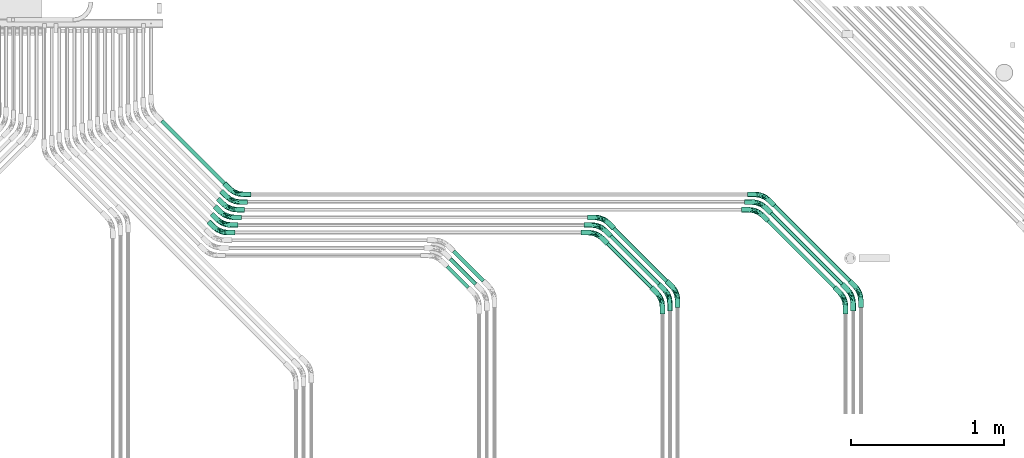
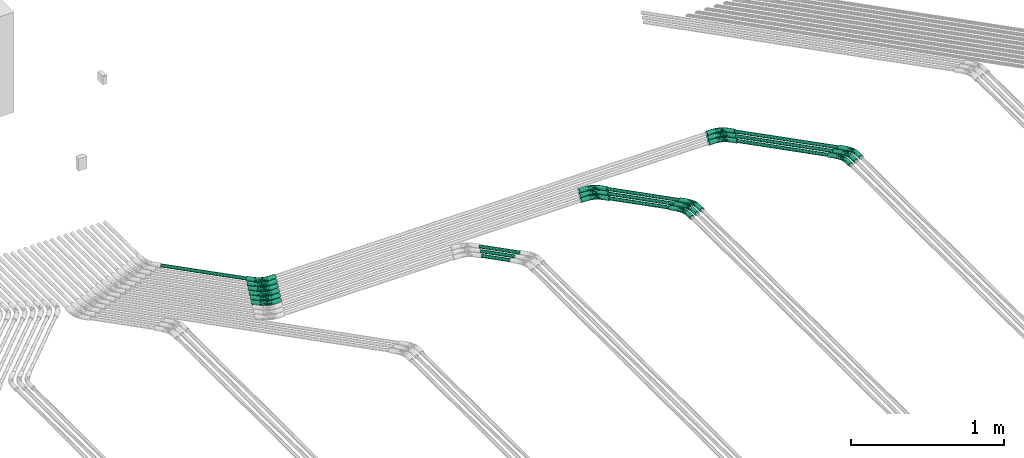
# One storey, part 18 of 51: 18 flow fittings, 10 flow segments.
"""IFC2X3 building model written with IfcOpenShell, lengths in millimetres."""

import ifcopenshell
import ifcopenshell.guid

model = None  # the IFC model being written
_history = None  # IfcOwnerHistory: only IFC2X3 demands one
_inside = {}  # id of a spatial element -> (the spatial element, [elements in it])
_under = {}  # id of a project, library or spatial element -> (it, [spatial elements below it])
_declared = {}  # id of a project -> (the project, [libraries it declares])
_typed = {}  # id of a type object -> (the type object, [elements of that type])
_made_of = {}  # id of a material, layer set ... -> (it, [elements and type objects made of it])


def new_model(schema):
    """Start an empty IFC model of exactly this schema.

    Asked for "IFC4X3", IfcOpenShell would pick the latest addendum, in which some entities
    have other attributes; the version numbers below select the first issue.
    IFC2X3 requires an IfcOwnerHistory on every rooted entity: one is made here for all.
    """
    global model, _history
    if schema == "IFC4X3":
        model = ifcopenshell.file(schema_version=(4, 3, 0, 0))
    else:
        model = ifcopenshell.file(schema=schema)
    _inside.clear()
    _under.clear()
    _declared.clear()
    _typed.clear()
    _made_of.clear()
    _history = None
    if model.schema == "IFC2X3":
        org = make("IfcOrganization", Name="unknown")
        user = make(
            "IfcPersonAndOrganization",
            ThePerson=make("IfcPerson", FamilyName="unknown"),
            TheOrganization=org,
        )
        app = make(
            "IfcApplication",
            ApplicationDeveloper=org,
            Version="unknown",
            ApplicationFullName="unknown",
            ApplicationIdentifier="unknown",
        )
        _history = make(
            "IfcOwnerHistory",
            OwningUser=user,
            OwningApplication=app,
            ChangeAction="ADDED",
            CreationDate=0,
        )
    return model


def make(cls, **values):
    """One entity of the class cls with the attributes given. An attribute that is None is left unset."""
    return model.create_entity(
        cls, **{name: value for name, value in values.items() if value is not None}
    )


def entity(cls, *values):
    """Any entity or typed value of the class cls, its attributes in the order of the schema. None: left unset."""
    e = model.create_entity(cls)
    for i, value in enumerate(values):
        if value is not None:
            e[i] = value
    return e


def rooted(cls, **values):
    """An entity with a GlobalId (a new one), such as an element, a storey or a relation."""
    return make(cls, GlobalId=ifcopenshell.guid.new(), OwnerHistory=_history, **values)


def si_unit(unit_type, name, prefix=None):
    """IfcSIUnit, for example si_unit("LENGTHUNIT", "METRE", prefix="MILLI")."""
    return make("IfcSIUnit", UnitType=unit_type, Prefix=prefix, Name=name)


def converted_unit(unit_type, name, factor, base, dimensions=None, offset=None):
    """IfcConversionBasedUnit, such as the inch: factor (a typed value) times the base unit."""
    return make(
        "IfcConversionBasedUnit"
        if offset is None
        else "IfcConversionBasedUnitWithOffset",
        ConversionOffset=offset,
        Dimensions=None
        if dimensions is None
        else entity("IfcDimensionalExponents", *dimensions),
        UnitType=unit_type,
        Name=name,
        ConversionFactor=make(
            "IfcMeasureWithUnit", ValueComponent=factor, UnitComponent=base
        ),
    )


def derived_unit(unit_type, elements):
    """IfcDerivedUnit: a product of units, each with its exponent."""
    return make(
        "IfcDerivedUnit",
        Elements=[
            make("IfcDerivedUnitElement", Unit=unit, Exponent=power)
            for unit, power in elements
        ],
        UnitType=unit_type,
    )


def assignment(units):
    """IfcUnitAssignment: the units of a project."""
    return None if units is None else make("IfcUnitAssignment", Units=units)


def point(xyz):
    """IfcCartesianPoint."""
    return None if xyz is None else make("IfcCartesianPoint", Coordinates=xyz)


def direction(xyz):
    """IfcDirection."""
    return None if xyz is None else make("IfcDirection", DirectionRatios=xyz)


def frame(location, z_axis=None, x_axis=None):
    """IfcAxis2Placement3D, a coordinate frame: its origin and axes. An axis left out is left unset."""
    return make(
        "IfcAxis2Placement3D",
        Location=point(location),
        Axis=direction(z_axis),
        RefDirection=direction(x_axis),
    )


def frame_2d(location, x_axis=None):
    """IfcAxis2Placement2D, a coordinate frame in the plane: its origin and x axis."""
    return make(
        "IfcAxis2Placement2D", Location=point(location), RefDirection=direction(x_axis)
    )


def origin_with_axes():
    """The frame at (0, 0, 0) with the z axis (0, 0, 1) and the x axis (1, 0, 0) written out."""
    return frame((0.0, 0.0, 0.0), z_axis=(0.0, 0.0, 1.0), x_axis=(1.0, 0.0, 0.0))


def origin_2d_with_axis():
    """The frame at (0, 0) in the plane with the x axis (1, 0) written out."""
    return frame_2d((0.0, 0.0), x_axis=(1.0, 0.0))


def place(relative_to, where):
    """IfcLocalPlacement: puts the frame where relative to a parent placement (None: the world)."""
    return make(
        "IfcLocalPlacement", PlacementRelTo=relative_to, RelativePlacement=where
    )


def context(
    kind, dimensions, precision=None, world=None, true_north=None, identifier=None
):
    """IfcGeometricRepresentationContext, for example the 3D "Model" context."""
    return make(
        "IfcGeometricRepresentationContext",
        ContextIdentifier=identifier,
        ContextType=kind,
        CoordinateSpaceDimension=dimensions,
        Precision=precision,
        WorldCoordinateSystem=world,
        TrueNorth=true_north,
    )


def subcontext(parent, identifier, kind, view, scale=None):
    """IfcGeometricRepresentationSubContext, for example "Body" below "Model"."""
    return make(
        "IfcGeometricRepresentationSubContext",
        ContextIdentifier=identifier,
        ContextType=kind,
        ParentContext=parent,
        TargetScale=scale,
        TargetView=view,
    )


def project(units=None, contexts=None):
    """IfcProject with its units and contexts."""
    return rooted(
        "IfcProject",
        Name="project",
        RepresentationContexts=contexts,
        UnitsInContext=assignment(units),
    )


def spatial(cls, under=None, at=None, **own):
    """A site, building, storey or space (cls), placed at a placement, below another one or the project."""
    s = rooted(cls, ObjectPlacement=at, **own)
    if under is not None:
        _under.setdefault(under.id(), (under, []))[1].append(s)
    return s


def profile(cls, at=None, kind="AREA", **sizes):
    """A parametric profile (cls). Its sizes go by their IFC names, for example OverallWidth=200.0."""
    return make(cls, ProfileType=kind, Position=at, **sizes)


def hollow_circle(**sizes):
    """IfcCircleHollowProfileDef."""
    return profile("IfcCircleHollowProfileDef", **sizes)


def extrude(swept, where, along, depth):
    """IfcExtrudedAreaSolid: the profile swept, set in the frame where, extruded along a direction by depth."""
    return make(
        "IfcExtrudedAreaSolid",
        SweptArea=swept,
        Position=where,
        ExtrudedDirection=direction(along),
        Depth=depth,
    )


def faces_of(points, faces, orient=None, outer=None):
    """IfcFace entities. A face is a list of loops; a loop is a list of indices into points, from 0.

    orient and outer hold one flag for each loop. By default every Orientation is true, the
    first loop of a face is its IfcFaceOuterBound and the others are IfcFaceBound.
    """
    made = []
    for i, loops in enumerate(faces):
        bounds = []
        for j, loop in enumerate(loops):
            is_outer = j == 0 if outer is None else outer[i][j]
            bounds.append(
                make(
                    "IfcFaceOuterBound" if is_outer else "IfcFaceBound",
                    Bound=make("IfcPolyLoop", Polygon=[points[k] for k in loop]),
                    Orientation=True if orient is None else orient[i][j],
                )
            )
        made.append(make("IfcFace", Bounds=bounds))
    return made


def open_shell(faces, orient=None, outer=None):
    """The faces of one IfcOpenShell. surface_model builds it on its shared points."""
    return ("IfcOpenShell", faces, orient, outer)


def surface_model(cls, points, shells):
    """IfcFaceBasedSurfaceModel or IfcShellBasedSurfaceModel (cls): surfaces that need not close."""
    shared = [point(p) for p in points]
    made = [make(c, CfsFaces=faces_of(shared, fs, o, b)) for c, fs, o, b in shells]
    if cls == "IfcFaceBasedSurfaceModel":
        return make(cls, FbsmFaces=made)
    return make(cls, SbsmBoundary=made)


def shape(context_of_items, identifier, shape_type, items):
    """IfcShapeRepresentation: the items that make up one representation, for example the "Body"."""
    return make(
        "IfcShapeRepresentation",
        ContextOfItems=context_of_items,
        RepresentationIdentifier=identifier,
        RepresentationType=shape_type,
        Items=items,
    )


def source(mapping_origin, context_of_items, identifier, shape_type, items):
    """IfcRepresentationMap: a shape defined once, which mapped items show again and again."""
    return make(
        "IfcRepresentationMap",
        MappingOrigin=mapping_origin,
        MappedRepresentation=shape(context_of_items, identifier, shape_type, items),
    )


def transform(
    local_origin,
    x_axis=None,
    y_axis=None,
    z_axis=None,
    scale=None,
    scale2=None,
    scale3=None,
    uniform=True,
):
    """IfcCartesianTransformationOperator3D, or its non-uniform kind. x_axis, y_axis, z_axis: its Axis1, 2, 3."""
    if uniform:
        return make(
            "IfcCartesianTransformationOperator3D",
            Axis1=direction(x_axis),
            Axis2=direction(y_axis),
            LocalOrigin=point(local_origin),
            Scale=scale,
            Axis3=direction(z_axis),
        )
    return make(
        "IfcCartesianTransformationOperator3DnonUniform",
        Axis1=direction(x_axis),
        Axis2=direction(y_axis),
        LocalOrigin=point(local_origin),
        Scale=scale,
        Axis3=direction(z_axis),
        Scale2=scale2,
        Scale3=scale3,
    )


def mapped(mapping_source, mapping_target):
    """IfcMappedItem: shows the shape of a source again, moved by a transform."""
    return make(
        "IfcMappedItem", MappingSource=mapping_source, MappingTarget=mapping_target
    )


def made_of(thing, what):
    """Note that an element or type object is made of a material, layer set ...; save() writes the relation."""
    if what is not None:
        _made_of.setdefault(what.id(), (what, []))[1].append(thing)
    return thing


def type_object(cls, material=None, **own):
    """A type object (cls), such as IfcWallType, which elements share."""
    return made_of(rooted(cls, **own), material)


def element(
    cls,
    number,
    at=None,
    inside=None,
    cuts=None,
    type_object=None,
    material=None,
    context=None,
    identifier="Body",
    shape_type=None,
    held_by="IfcProductDefinitionShape",
    body=None,
    shapes=None,
    **own,
):
    """One element of the class cls, such as IfcWall. Its Tag is "e" and its number.

    at: its placement. inside: the storey or other place that contains it. cuts: it is an
    opening in that element (IfcRelVoidsElement). A single representation is given by context,
    identifier, shape_type and body (its items); several are given by shapes. held_by: the class
    of the entity that holds the representations. save() writes the other relations.
    """
    e = rooted(cls, Tag="e%d" % number, ObjectPlacement=at, **own)
    if body is not None:
        shapes = [shape(context, identifier, shape_type, body)]
    if shapes is not None:
        e.Representation = make(held_by, Representations=shapes)
    if inside is not None:
        _inside.setdefault(inside.id(), (inside, []))[1].append(e)
    if cuts is not None:
        rooted(
            "IfcRelVoidsElement", RelatingBuildingElement=cuts, RelatedOpeningElement=e
        )
    if type_object is not None:
        _typed.setdefault(type_object.id(), (type_object, []))[1].append(e)
    return made_of(e, material)


def aggregate(whole, parts):
    """IfcRelAggregates: a whole, such as a stair, and the parts it consists of."""
    return rooted("IfcRelAggregates", RelatingObject=whole, RelatedObjects=parts)


def save(model, path):
    """Write the relations noted so far, then the file.

    IfcRelAggregates (storeys below a building ...), IfcRelContainedInSpatialStructure (elements
    in a storey), IfcRelDefinesByType, IfcRelAssociatesMaterial and IfcRelDeclares: one each for
    every whole, place, type object, material and project.
    """
    for whole, parts in _under.values():
        aggregate(whole, parts)
    for where, things in _inside.values():
        rooted(
            "IfcRelContainedInSpatialStructure",
            RelatedElements=things,
            RelatingStructure=where,
        )
    for kind, things in _typed.values():
        rooted("IfcRelDefinesByType", RelatedObjects=things, RelatingType=kind)
    for what, things in _made_of.values():
        rooted("IfcRelAssociatesMaterial", RelatedObjects=things, RelatingMaterial=what)
    for by, libraries in _declared.values():
        rooted("IfcRelDeclares", RelatingContext=by, RelatedDefinitions=libraries)
    model.write(path)


model = new_model("IFC2X3")

# Units and contexts
model_context = context("Model", 3, precision=0.01, world=frame((0.0, 4.29681676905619e-09, 0.0)), true_north=direction((4.01073788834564e-13, 1.0)))
plan_context = context("Plan", 3, precision=0.01, world=frame((0.0, 4.29681676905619e-09, 0.0)), true_north=direction((4.01073788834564e-13, 1.0)))
body_context = subcontext(model_context, "Body", "Model", "MODEL_VIEW")
ifc_project = project(units=[converted_unit("PLANEANGLEUNIT", "DEGREE", entity("IfcPositiveLengthMeasure", 0.0174532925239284), si_unit("PLANEANGLEUNIT", "RADIAN"), dimensions=[0, 0, 0, 0, 0, 0, 0]), si_unit("AREAUNIT", "SQUARE_METRE"), si_unit("LENGTHUNIT", "METRE", prefix="MILLI"), si_unit("MASSUNIT", "GRAM", prefix="KILO"), si_unit("POWERUNIT", "WATT"), si_unit("PRESSUREUNIT", "PASCAL"), si_unit("FORCEUNIT", "NEWTON", prefix="KILO"), si_unit("ELECTRICVOLTAGEUNIT", "VOLT"), si_unit("ELECTRICCURRENTUNIT", "AMPERE"), si_unit("THERMODYNAMICTEMPERATUREUNIT", "DEGREE_CELSIUS"), si_unit("TIMEUNIT", "SECOND"), si_unit("VOLUMEUNIT", "CUBIC_METRE"), derived_unit("LINEARVELOCITYUNIT", [(si_unit("LENGTHUNIT", "METRE"), 1), (si_unit("TIMEUNIT", "SECOND"), -1)]), derived_unit("VOLUMETRICFLOWRATEUNIT", [(si_unit("VOLUMEUNIT", "CUBIC_METRE"), 1), (si_unit("TIMEUNIT", "SECOND"), -1)]), derived_unit("THERMALTRANSMITTANCEUNIT", [(si_unit("POWERUNIT", "WATT"), 1), (si_unit("THERMODYNAMICTEMPERATUREUNIT", "KELVIN"), -1), (si_unit("AREAUNIT", "SQUARE_METRE"), -1)]), derived_unit("SOUNDPRESSUREUNIT", [(si_unit("PRESSUREUNIT", "PASCAL"), 1)])], contexts=[model_context, plan_context])

# Site, building, storey
site_placement = place(None, frame((0.0, -4.29681676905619e-09, 0.0), z_axis=(0.0, 0.0, 1.0), x_axis=(1.0, 0.0, 0.0)))
site = spatial("IfcSite", under=ifc_project, at=site_placement, Name="ENGM", CompositionType="ELEMENT")
building_placement = place(site_placement, frame((0.0, 4.29681676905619e-09, 0.0), z_axis=(0.0, 0.0, 1.0), x_axis=(1.0, 0.0, 0.0)))
building = spatial("IfcBuilding", under=site, at=building_placement, Name="TI", CompositionType="ELEMENT")
storey_placement = place(building_placement, frame((0.0, 0.0, 210900.0), z_axis=(0.0, 0.0, 1.0), x_axis=(1.0, 0.0, 0.0)))
storey = spatial("IfcBuildingStorey", under=building, at=storey_placement, Name="Nivå F", CompositionType="ELEMENT", Elevation=210900.0)

# Flow fittings
cable_carrier_fitting_type = type_object("IfcCableCarrierFittingType", Name="Trekkerør, glatt bend", PredefinedType="BEND")
shared_shape_1 = source(origin_with_axes(), body_context, "Body", "SurfaceModel", [
    surface_model("IfcShellBasedSurfaceModel", [(-101.90646, 8.46055, -14.6541), (-101.90646, 4.3795, -16.34452), (-101.90646, 0.0, -16.92109), (-101.90646, 14.6541, -8.46055), (-101.90646, -8.46055, -14.6541), (-101.90646, 11.96502, -11.96502), (-101.90646, -16.92109, 0.0), (-101.90646, -16.34452, 4.3795), (-101.90646, -11.96502, -11.96502), (-101.90646, -14.6541, -8.46055), (-101.90646, -4.3795, -16.34452), (-101.90646, -16.34452, -4.3795), (-101.90646, 16.92109, 0.0), (-101.90646, 16.34452, -4.3795), (-101.90646, 16.34452, 4.3795), (-101.90646, 14.6541, 8.46055), (-101.90646, 8.46055, 14.6541), (-101.90646, 11.96502, 11.96502), (-101.90646, 0.0, 16.92109), (-101.90646, 4.3795, 16.34452), (-101.90646, -11.96502, 11.96502), (-101.90646, -8.46055, 14.6541), (-101.90646, -14.6541, 8.46055), (-101.90646, -4.3795, 16.34452), (-54.58849, -16.92109, 0.0), (-54.58849, -16.34452, 4.3795), (-54.58849, -14.6541, 8.46055), (-54.58849, -11.96502, 11.96502), (-54.58849, -8.46055, 14.6541), (-54.58849, -4.3795, 16.34452), (-54.58849, 0.0, 16.92109), (-54.58849, 4.3795, 16.34452), (-54.58849, 8.46055, 14.6541), (-54.58849, 11.96502, 11.96502), (-54.58849, 14.6541, 8.46055), (-54.58849, 16.34452, 4.3795), (-54.58849, 16.92109, 0.0), (-54.58849, 16.34452, -4.3795), (-54.58849, 14.6541, -8.46055), (-54.58849, 11.96502, -11.96502), (-54.58849, 8.46055, -14.6541), (-54.58849, 4.3795, -16.34452), (-54.58849, 0.0, -16.92109), (-54.58849, -4.3795, -16.34452), (-54.58849, -8.46055, -14.6541), (-54.58849, -11.96502, -11.96502), (-54.58849, -14.6541, -8.46055), (-54.58849, -16.34452, -4.3795), (10.9245, -1.31078, 3.47544), (-13.36235, -10.76027, 3.27049), (-16.09967, -11.85394, 0.0), (41.69667, 35.50312, 16.34452), (38.59989, 38.59989, 16.92109), (22.26214, 21.90343, 16.76352), (-19.66365, -2.12805, 15.57779), (-29.58477, -8.16493, 13.36262), (-20.60685, -9.47816, 10.19127), (-34.07223, 17.39409, 6.62821), (-10.25807, 24.76518, 5.65746), (-29.40446, 19.36118, 3.4046), (-3.22837, 7.79397, 16.74683), (-31.22977, -0.25365, 16.76352), (35.50312, 41.69667, 16.34452), (32.61738, 44.5824, 14.6541), (17.47707, 29.1678, 15.66764), (-16.62388, 19.5721, 10.43045), (-25.92736, 13.63005, 13.4985), (5.09993, 25.84703, 13.50914), (-21.17216, 6.44783, 16.79403), (19.76619, 3.00218, 0.0), (-6.56017, 15.83764, 15.71089), (-32.9829, 8.26659, 15.66764), (19.50033, 6.79523, 10.18462), (48.96191, 28.23788, 8.46055), (47.06044, 30.13935, 11.96502), (-0.14544, 0.35113, 13.28643), (-24.85868, 20.8351, 0.0), (44.5824, 32.61738, 14.6541), (26.69306, 15.14611, 13.36262), (8.9424, 34.00903, 7.47137), (8.93562, 35.31889, 4.60583), (25.73601, 8.11548, 6.36012), (-6.07752, -7.50254, 6.29064), (28.23788, 48.96191, 8.46055), (10.0687, 32.56851, 10.38353), (30.13935, 47.06044, 11.96502), (-30.89964, -14.04008, 5.64535), (16.01237, 12.75836, 15.5789), (12.05401, 20.50658, 16.79305), (50.15722, 27.04257, 4.3795), (50.56491, 26.63487, 0.0), (32.88314, 11.79305, 2.69799), (2.8451, 32.31038, 0.0), (26.63487, 50.56491, 0.0), (27.04257, 50.15722, 4.3795), (-32.9829, 8.26659, -15.66764), (16.55602, 18.09298, -16.75967), (38.59989, 38.59989, -16.92109), (41.69667, 35.50312, -16.34452), (30.13935, 47.06044, -11.96502), (32.61738, 44.5824, -14.6541), (8.69552, 27.97131, -13.4985), (-6.56017, 15.83764, -15.71089), (-21.88281, 14.67041, -13.50914), (-31.29267, 18.65579, -4.60583), (-30.37125, 17.72478, -7.47137), (-10.25807, 24.76517, -5.65746), (-1.59965, 3.86188, -15.54749), (17.63726, 9.2923, -13.33594), (-19.1381, -5.92521, -13.33619), (-2.08471, 25.59442, -10.43045), (-30.14906, 15.90977, -10.38353), (-24.73941, 5.56629, -16.79215), (10.41167, 19.53028, -16.79403), (-18.36618, -11.17146, -6.33871), (-28.92763, -11.20296, -10.21852), (-19.67101, 2.27248, -16.75686), (-22.81878, -13.17372, -3.2081), (17.47707, 29.1678, -15.66764), (-30.36783, -4.42984, -15.59506), (24.60567, 18.34093, -15.59506), (35.50312, 41.69667, -16.34452), (7.10167, 34.48251, -3.4046), (27.04257, 50.15722, -4.3795), (44.5824, 32.61738, -14.6541), (47.06044, 30.13935, -11.96502), (28.23788, 48.96191, -8.46055), (11.79322, 36.39219, -6.62821), (1.03493, -2.49855, -10.11808), (48.96191, 28.23788, -8.46055), (28.37661, 12.53324, -10.21852), (20.88626, 5.08744, -6.33871), (25.45054, 6.82009, -3.2081), (2.19574, -5.30098, -3.30061), (50.15722, 27.04257, -4.3795), (60.50143, 83.61607, -4.3795), (72.05875, 72.05875, -16.92109), (68.96197, 75.15552, -16.34452), (66.07624, 78.04126, -14.6541), (63.5982, 80.51929, -11.96502), (61.69674, 82.42076, -8.46055), (75.15552, 68.96197, -16.34452), (80.51929, 63.5982, -11.96502), (78.04126, 66.07624, -14.6541), (83.61607, 60.50143, -4.3795), (82.42076, 61.69674, -8.46055), (83.61607, 60.50143, 4.3795), (84.02377, 60.09373, 0.0), (75.15552, 68.96197, 16.34452), (60.50143, 83.61607, 4.3795), (61.69674, 82.42076, 8.46055), (66.07624, 78.04126, 14.6541), (72.05875, 72.05875, 16.92109), (63.5982, 80.51929, 11.96502), (68.96197, 75.15552, 16.34452), (80.51929, 63.5982, 11.96502), (82.42076, 61.69674, 8.46055), (78.04126, 66.07624, 14.6541), (60.09373, 84.02377, 0.0)], [open_shell([[[0, 1, 2]], [[3, 0, 2]], [[4, 3, 2]], [[5, 0, 3]], [[3, 6, 7]], [[8, 9, 4]], [[2, 10, 4]], [[9, 11, 4]], [[11, 3, 4]], [[3, 11, 6]], [[12, 13, 3]], [[12, 7, 14]], [[14, 7, 15]], [[16, 17, 18]], [[15, 18, 17]], [[18, 19, 16]], [[20, 21, 22]], [[15, 7, 22]], [[23, 18, 21]], [[15, 22, 21]], [[15, 21, 18]], [[3, 7, 12]], [[7, 24, 25]], [[26, 22, 25]], [[21, 27, 28]], [[26, 27, 20]], [[23, 28, 29]], [[24, 7, 6]], [[25, 22, 7]], [[26, 20, 22]], [[27, 21, 20]], [[23, 21, 28]], [[29, 18, 23]], [[29, 30, 18]], [[16, 31, 32]], [[33, 17, 32]], [[14, 34, 35]], [[33, 34, 15]], [[12, 35, 36]], [[31, 19, 30]], [[31, 16, 19]], [[30, 19, 18]], [[32, 17, 16]], [[33, 15, 17]], [[14, 15, 34]], [[35, 12, 14]], [[13, 36, 37]], [[38, 3, 37]], [[0, 39, 40]], [[38, 39, 5]], [[1, 40, 41]], [[36, 13, 12]], [[37, 3, 13]], [[38, 5, 3]], [[39, 0, 5]], [[1, 0, 40]], [[41, 2, 1]], [[41, 42, 2]], [[4, 43, 44]], [[45, 8, 44]], [[11, 46, 47]], [[45, 46, 9]], [[6, 47, 24]], [[43, 10, 42]], [[43, 4, 10]], [[42, 10, 2]], [[44, 8, 4]], [[45, 9, 8]], [[11, 9, 46]], [[47, 6, 11]], [[48, 49, 50]], [[49, 24, 50]], [[51, 52, 53]], [[29, 28, 54]], [[27, 55, 28]], [[56, 27, 26]], [[57, 58, 59]], [[60, 61, 54]], [[61, 30, 29]], [[62, 63, 64]], [[65, 66, 67]], [[31, 30, 68]], [[48, 50, 69]], [[67, 66, 70]], [[33, 32, 66]], [[65, 58, 57]], [[71, 32, 31]], [[72, 73, 74]], [[56, 72, 75]], [[59, 76, 36]], [[74, 77, 78]], [[36, 35, 59]], [[58, 79, 80]], [[81, 72, 82]], [[70, 71, 68]], [[83, 84, 85]], [[25, 49, 86]], [[34, 33, 65]], [[87, 77, 51]], [[54, 87, 60]], [[72, 56, 82]], [[88, 70, 68]], [[72, 81, 73]], [[73, 81, 89]], [[88, 62, 64]], [[78, 72, 74]], [[60, 88, 68]], [[90, 89, 91]], [[48, 81, 82]], [[55, 56, 75]], [[84, 67, 85]], [[59, 92, 76]], [[26, 86, 56]], [[92, 80, 93]], [[75, 78, 87]], [[80, 79, 94]], [[87, 51, 53]], [[70, 64, 67]], [[61, 68, 30]], [[65, 84, 79]], [[60, 53, 88]], [[67, 63, 85]], [[88, 52, 62]], [[65, 33, 66]], [[75, 87, 54]], [[91, 81, 48]], [[66, 32, 71]], [[55, 54, 28]], [[79, 84, 83]], [[67, 84, 65]], [[56, 55, 27]], [[54, 55, 75]], [[87, 78, 77]], [[72, 78, 75]], [[94, 79, 83]], [[65, 79, 58]], [[93, 80, 94]], [[92, 58, 80]], [[54, 61, 29]], [[68, 61, 60]], [[88, 53, 52]], [[87, 53, 60]], [[48, 82, 49]], [[91, 48, 69]], [[90, 91, 69]], [[81, 91, 89]], [[86, 49, 82]], [[24, 49, 25]], [[56, 86, 82]], [[26, 25, 86]], [[68, 71, 31]], [[66, 71, 70]], [[67, 64, 63]], [[88, 64, 70]], [[57, 35, 34]], [[92, 59, 58]], [[35, 57, 59]], [[65, 57, 34]], [[40, 95, 41]], [[96, 97, 98]], [[99, 100, 101]], [[102, 95, 103]], [[76, 104, 36]], [[104, 105, 37]], [[104, 106, 105]], [[107, 108, 109]], [[105, 110, 111]], [[40, 39, 103]], [[110, 99, 101]], [[112, 102, 113]], [[114, 46, 115]], [[116, 113, 96]], [[24, 47, 117]], [[110, 101, 103]], [[114, 47, 46]], [[101, 100, 118]], [[119, 44, 43]], [[112, 41, 95]], [[46, 45, 115]], [[45, 44, 109]], [[107, 119, 116]], [[113, 116, 112]], [[96, 98, 120]], [[113, 121, 97]], [[122, 76, 92]], [[112, 116, 42]], [[93, 123, 122]], [[124, 125, 108]], [[43, 42, 116]], [[110, 126, 99]], [[102, 103, 101]], [[106, 122, 127]], [[100, 121, 118]], [[128, 115, 109]], [[109, 44, 119]], [[127, 110, 106]], [[128, 109, 108]], [[113, 102, 118]], [[120, 98, 124]], [[113, 97, 96]], [[129, 130, 125]], [[107, 120, 108]], [[42, 41, 112]], [[107, 116, 96]], [[128, 130, 131]], [[128, 131, 114]], [[69, 132, 90]], [[69, 133, 132]], [[50, 117, 133]], [[133, 117, 114]], [[133, 69, 50]], [[129, 134, 131]], [[130, 108, 125]], [[122, 92, 93]], [[111, 103, 39]], [[38, 111, 39]], [[105, 111, 38]], [[103, 111, 110]], [[109, 115, 45]], [[114, 115, 128]], [[131, 130, 129]], [[108, 130, 128]], [[37, 105, 38]], [[110, 105, 106]], [[36, 104, 37]], [[76, 106, 104]], [[116, 119, 43]], [[109, 119, 107]], [[108, 120, 124]], [[96, 120, 107]], [[114, 131, 133]], [[132, 133, 131]], [[103, 95, 40]], [[112, 95, 102]], [[113, 118, 121]], [[101, 118, 102]], [[24, 117, 50]], [[47, 114, 117]], [[131, 134, 132]], [[90, 132, 134]], [[127, 123, 126]], [[76, 122, 106]], [[123, 127, 122]], [[110, 127, 126]], [[135, 136, 137]], [[135, 137, 138]], [[139, 140, 135]], [[139, 135, 138]], [[136, 135, 141]], [[141, 142, 143]], [[142, 141, 144]], [[142, 144, 145]], [[141, 135, 144]], [[144, 146, 147]], [[144, 135, 148]], [[135, 149, 150]], [[150, 151, 135]], [[151, 152, 135]], [[151, 150, 153]], [[151, 154, 152]], [[146, 155, 156]], [[155, 146, 157]], [[146, 148, 157]], [[146, 144, 148]], [[152, 148, 135]], [[149, 135, 158]], [[89, 147, 146]], [[156, 73, 146]], [[77, 155, 157]], [[156, 155, 74]], [[51, 157, 148]], [[147, 89, 90]], [[146, 73, 89]], [[156, 74, 73]], [[155, 77, 74]], [[51, 77, 157]], [[148, 52, 51]], [[148, 152, 52]], [[63, 154, 151]], [[153, 85, 151]], [[94, 150, 149]], [[153, 150, 83]], [[93, 149, 158]], [[154, 62, 152]], [[154, 63, 62]], [[152, 62, 52]], [[151, 85, 63]], [[153, 83, 85]], [[94, 83, 150]], [[149, 93, 94]], [[93, 158, 135]], [[140, 123, 135]], [[138, 137, 121]], [[139, 138, 99]], [[126, 140, 139]], [[140, 126, 123]], [[123, 93, 135]], [[99, 138, 100]], [[100, 138, 121]], [[137, 97, 121]], [[99, 126, 139]], [[137, 136, 97]], [[124, 141, 143]], [[142, 125, 143]], [[134, 145, 144]], [[142, 145, 129]], [[90, 144, 147]], [[141, 98, 136]], [[141, 124, 98]], [[136, 98, 97]], [[143, 125, 124]], [[142, 129, 125]], [[134, 129, 145]], [[144, 90, 134]]])]),
])
for number, where, z_axis, x_axis, name in (
    (1, (602327.57359, 698246.14175, -56.7999999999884), (0.0, 0.0, 1.0), (0.707097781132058, -0.707115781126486, 0.0), "Trekkerør, glatt bend"),
    (2, (602306.86291, 698196.14175, -56.7999999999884), (0.0, 0.0, 1.0), (0.707097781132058, -0.707115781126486, 0.0), "Trekkerør, glatt bend"),
    (3, (602286.15224, 698146.14175, -56.7999999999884), (0.0, 0.0, 1.0), (0.707097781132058, -0.707115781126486, 0.0), "Trekkerør, glatt bend"),
    (4, (602265.44156, 698096.14175, -56.7999999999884), (0.0, 0.0, 1.0), (0.707097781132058, -0.707115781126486, 0.0), "Trekkerør, glatt bend"),
    (5, (602244.73088, 698046.14175, -56.7999999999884), (0.0, 0.0, 1.0), (0.707097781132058, -0.707115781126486, 0.0), "Trekkerør, glatt bend"),
    (6, (602224.0202, 697996.14175, -56.7999999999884), (0.0, 0.0, 1.0), (0.707097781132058, -0.707115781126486, 0.0), "Trekkerør, glatt bend"),
    (7, (606424.59, 697606.90293, -56.7999999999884), (0.0, 0.0, 1.0), (0.0, 1.0, 0.0), "Trekkerør, glatt bend"),
    (8, (606374.59, 697586.19225, -56.7999999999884), (0.0, 0.0, 1.0), (0.0, 1.0, 0.0), "Trekkerør, glatt bend"),
    (9, (606324.59, 697565.48158, -56.7999999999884), (0.0, 0.0, 1.0), (0.0, 1.0, 0.0), "Trekkerør, glatt bend"),
    (10, (605785.35118, 698246.14175, -56.7999999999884), (0.0, 0.0, 1.0), (-0.707106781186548, 0.707106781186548, 0.0), "Trekkerør, glatt bend"),
    (11, (605764.64051, 698196.14175, -56.7999999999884), (0.0, 0.0, 1.0), (-0.707106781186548, 0.707106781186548, 0.0), "Trekkerør, glatt bend"),
    (12, (605743.92983, 698146.14175, -56.7999999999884), (0.0, 0.0, 1.0), (-0.707106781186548, 0.707106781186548, 0.0), "Trekkerør, glatt bend"),
    (13, (605224.59, 697606.90293, -56.7999999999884), (0.0, 0.0, 1.0), (0.0, 1.0, 0.0), "Trekkerør, glatt bend"),
    (14, (605174.59, 697586.19225, -56.7999999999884), (0.0, 0.0, 1.0), (0.0, 1.0, 0.0), "Trekkerør, glatt bend"),
    (15, (604735.35118, 698096.14175, -56.7999999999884), (0.0, 0.0, 1.0), (-0.707106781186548, 0.707106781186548, 0.0), "Trekkerør, glatt bend"),
    (16, (605124.59, 697565.48158, -56.7999999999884), (0.0, 0.0, 1.0), (0.0, 1.0, 0.0), "Trekkerør, glatt bend"),
    (17, (604693.92983, 697996.14175, -56.7999999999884), (0.0, 0.0, 1.0), (-0.707106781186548, 0.707106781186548, 0.0), "Trekkerør, glatt bend"),
    (18, (604714.64051, 698046.14175, -56.7999999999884), (0.0, 0.0, 1.0), (-0.707106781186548, 0.707106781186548, 0.0), "Trekkerør, glatt bend"),
):
    element("IfcFlowFitting", number, at=place(storey_placement, frame(where, z_axis=z_axis, x_axis=x_axis)), inside=storey, type_object=cable_carrier_fitting_type, Name=name, context=body_context, shape_type="MappedRepresentation", body=[
        mapped(shared_shape_1, transform((0.0, 0.0, 0.0), scale=1.0)),
    ])

# Flow segments
cable_carrier_segment_type = type_object("IfcCableCarrierSegmentType", Name="Trekkerør, korrugert", PredefinedType="CONDUITSEGMENT")
shared_shape_2 = source(origin_with_axes(), body_context, "Body", "SweptSolid", [
    extrude(hollow_circle(Radius=12.5, WallThickness=2.0, at=origin_2d_with_axis()), frame((0.0, 0.0, 0.0), z_axis=(1.0, 0.0, 0.0), x_axis=(0.0, 1.0, 0.0)), (0.0, 0.0, 1.0), 578.0),
])
flow_segment_1_placement = place(storey_placement, frame((602255.51484, 698318.2005, -56.7999999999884), z_axis=(0.0, 0.0, 1.0), x_axis=(-0.707106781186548, 0.707106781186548, 0.0)))
element("IfcFlowSegment", 19, at=flow_segment_1_placement, inside=storey, type_object=cable_carrier_segment_type, Name="Trekkerør, korrugert", context=body_context, shape_type="MappedRepresentation", body=[
    mapped(shared_shape_2, transform((0.0, 0.0, 0.0), scale=1.0)),
])
shared_shape_3 = source(origin_with_axes(), body_context, "Body", "SweptSolid", [
    extrude(hollow_circle(Radius=12.5, WallThickness=2.0, at=origin_2d_with_axis()), frame((0.0, 0.0, 0.0), z_axis=(1.0, 0.0, 0.0), x_axis=(0.0, 1.0, 0.0)), (0.0, 0.0, 1.0), 700.2),
])
flow_segment_2_placement = place(storey_placement, frame((606352.53125, 697678.96168, -56.7999999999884), z_axis=(0.0, 0.0, 1.0), x_axis=(-0.707106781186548, 0.707106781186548, 0.0)))
element("IfcFlowSegment", 20, at=flow_segment_2_placement, inside=storey, type_object=cable_carrier_segment_type, Name="Trekkerør, korrugert", context=body_context, shape_type="MappedRepresentation", body=[
    mapped(shared_shape_3, transform((0.0, 0.0, 0.0), scale=1.0)),
])
shared_shape_4 = source(origin_with_axes(), body_context, "Body", "SweptSolid", [
    extrude(hollow_circle(Radius=12.5, WallThickness=2.0, at=origin_2d_with_axis()), frame((0.0, 0.0, 0.0), z_axis=(1.0, 0.0, 0.0), x_axis=(0.0, 1.0, 0.0)), (0.0, 0.0, 1.0), 658.8),
])
flow_segment_3_placement = place(storey_placement, frame((606302.53125, 697658.25101, -56.7999999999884), z_axis=(0.0, 0.0, 1.0), x_axis=(-0.707106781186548, 0.707106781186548, 0.0)))
element("IfcFlowSegment", 21, at=flow_segment_3_placement, inside=storey, type_object=cable_carrier_segment_type, Name="Trekkerør, korrugert", context=body_context, shape_type="MappedRepresentation", body=[
    mapped(shared_shape_4, transform((0.0, 0.0, 0.0), scale=1.0)),
])
shared_shape_5 = source(origin_with_axes(), body_context, "Body", "SweptSolid", [
    extrude(hollow_circle(Radius=12.5, WallThickness=2.0, at=origin_2d_with_axis()), frame((0.0, 0.0, 0.0), z_axis=(1.0, 0.0, 0.0), x_axis=(0.0, 1.0, 0.0)), (0.0, 0.0, 1.0), 617.4),
])
flow_segment_4_placement = place(storey_placement, frame((606252.53125, 697637.54033, -56.7999999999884), z_axis=(0.0, 0.0, 1.0), x_axis=(-0.707106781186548, 0.707106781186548, 0.0)))
element("IfcFlowSegment", 22, at=flow_segment_4_placement, inside=storey, type_object=cable_carrier_segment_type, Name="Trekkerør, korrugert", context=body_context, shape_type="MappedRepresentation", body=[
    mapped(shared_shape_5, transform((0.0, 0.0, 0.0), scale=1.0)),
])
shared_shape_6 = source(origin_with_axes(), body_context, "Body", "SweptSolid", [
    extrude(hollow_circle(Radius=12.5, WallThickness=2.0, at=origin_2d_with_axis()), frame((0.0, 0.0, 0.0), z_axis=(1.0, 0.0, 0.0), x_axis=(0.0, 1.0, 0.0)), (0.0, 0.0, 1.0), 488.1),
])
flow_segment_5_placement = place(storey_placement, frame((605152.53125, 697678.96168, -56.7999999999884), z_axis=(0.0, 0.0, 1.0), x_axis=(-0.707106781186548, 0.707106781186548, 0.0)))
element("IfcFlowSegment", 23, at=flow_segment_5_placement, inside=storey, type_object=cable_carrier_segment_type, Name="Trekkerør, korrugert", context=body_context, shape_type="MappedRepresentation", body=[
    mapped(shared_shape_6, transform((0.0, 0.0, 0.0), scale=1.0)),
])
shared_shape_7 = source(origin_with_axes(), body_context, "Body", "SweptSolid", [
    extrude(hollow_circle(Radius=12.5, WallThickness=2.0, at=origin_2d_with_axis()), frame((0.0, 0.0, 0.0), z_axis=(1.0, 0.0, 0.0), x_axis=(0.0, 1.0, 0.0)), (0.0, 0.0, 1.0), 446.7),
])
flow_segment_6_placement = place(storey_placement, frame((605102.53125, 697658.25101, -56.7999999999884), z_axis=(0.0, 0.0, 1.0), x_axis=(-0.707106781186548, 0.707106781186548, 0.0)))
element("IfcFlowSegment", 24, at=flow_segment_6_placement, inside=storey, type_object=cable_carrier_segment_type, Name="Trekkerør, korrugert", context=body_context, shape_type="MappedRepresentation", body=[
    mapped(shared_shape_7, transform((0.0, 0.0, 0.0), scale=1.0)),
])
shared_shape_8 = source(origin_with_axes(), body_context, "Body", "SweptSolid", [
    extrude(hollow_circle(Radius=12.5, WallThickness=2.0, at=origin_2d_with_axis()), frame((0.0, 0.0, 0.0), z_axis=(1.0, 0.0, 0.0), x_axis=(0.0, 1.0, 0.0)), (0.0, 0.0, 1.0), 405.2),
])
flow_segment_7_placement = place(storey_placement, frame((605052.53125, 697637.54033, -56.7999999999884), z_axis=(0.0, 0.0, 1.0), x_axis=(-0.707106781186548, 0.707106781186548, 0.0)))
element("IfcFlowSegment", 25, at=flow_segment_7_placement, inside=storey, type_object=cable_carrier_segment_type, Name="Trekkerør, korrugert", context=body_context, shape_type="MappedRepresentation", body=[
    mapped(shared_shape_8, transform((0.0, 0.0, 0.0), scale=1.0)),
])
shared_shape_9 = source(origin_with_axes(), body_context, "Body", "SweptSolid", [
    extrude(hollow_circle(Radius=12.5, WallThickness=2.0, at=origin_2d_with_axis()), frame((0.0, 0.0, 0.0), z_axis=(1.0, 0.0, 0.0), x_axis=(0.0, 1.0, 0.0)), (0.0, 0.0, 1.0), 275.9),
])
flow_segment_8_placement = place(storey_placement, frame((603952.53125, 697678.96168, -56.7999999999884), z_axis=(0.0, 0.0, 1.0), x_axis=(-0.707106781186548, 0.707106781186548, 0.0)))
element("IfcFlowSegment", 26, at=flow_segment_8_placement, inside=storey, type_object=cable_carrier_segment_type, Name="Trekkerør, korrugert", context=body_context, shape_type="MappedRepresentation", body=[
    mapped(shared_shape_9, transform((0.0, 0.0, 0.0), scale=1.0)),
])
shared_shape_10 = source(origin_with_axes(), body_context, "Body", "SweptSolid", [
    extrude(hollow_circle(Radius=12.5, WallThickness=2.0, at=origin_2d_with_axis()), frame((0.0, 0.0, 0.0), z_axis=(1.0, 0.0, 0.0), x_axis=(0.0, 1.0, 0.0)), (0.0, 0.0, 1.0), 234.5),
])
flow_segment_9_placement = place(storey_placement, frame((603902.53125, 697658.25101, -56.7999999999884), z_axis=(0.0, 0.0, 1.0), x_axis=(-0.707106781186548, 0.707106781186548, 0.0)))
element("IfcFlowSegment", 27, at=flow_segment_9_placement, inside=storey, type_object=cable_carrier_segment_type, Name="Trekkerør, korrugert", context=body_context, shape_type="MappedRepresentation", body=[
    mapped(shared_shape_10, transform((0.0, 0.0, 0.0), scale=1.0)),
])
shared_shape_11 = source(origin_with_axes(), body_context, "Body", "SweptSolid", [
    extrude(hollow_circle(Radius=12.5, WallThickness=2.0, at=origin_2d_with_axis()), frame((0.0, 0.0, 0.0), z_axis=(1.0, 0.0, 0.0), x_axis=(0.0, 1.0, 0.0)), (0.0, 0.0, 1.0), 193.1),
])
flow_segment_10_placement = place(storey_placement, frame((603852.53125, 697637.54033, -56.7999999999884), z_axis=(0.0, 0.0, 1.0), x_axis=(-0.707106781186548, 0.707106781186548, 0.0)))
element("IfcFlowSegment", 28, at=flow_segment_10_placement, inside=storey, type_object=cable_carrier_segment_type, Name="Trekkerør, korrugert", context=body_context, shape_type="MappedRepresentation", body=[
    mapped(shared_shape_11, transform((0.0, 0.0, 0.0), scale=1.0)),
])

save(model, "model.ifc")
